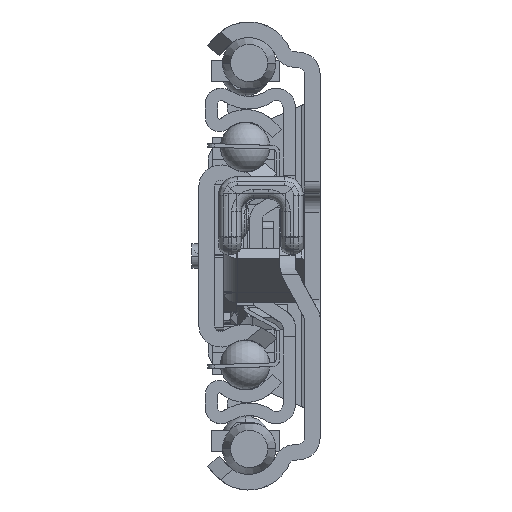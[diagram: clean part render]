
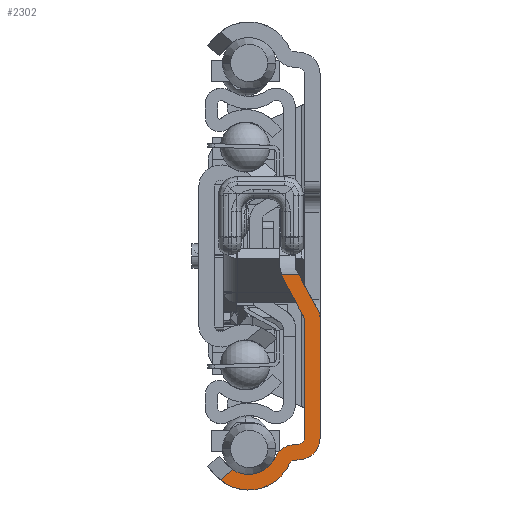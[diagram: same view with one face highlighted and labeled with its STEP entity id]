
A CAD part, left-side view. The second image highlights one B-rep face of the part: STEP entity #2302.
In plain terms, the highlighted planar face has unit normal (-1, 0, 0).
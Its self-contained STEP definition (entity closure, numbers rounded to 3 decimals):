
#45=DIRECTION('',(0.,0.769,-0.639));
#46=VECTOR('',#45,2.575);
#47=CARTESIAN_POINT('',(0.,14.098,
-34.377));
#48=LINE('',#47,#46);
#49=CARTESIAN_POINT('',(0.,11.5,-30.4));
#50=DIRECTION('',(-1.,0.,0.));
#51=DIRECTION('',(0.,0.547,-0.837));
#52=AXIS2_PLACEMENT_3D('',#49,#50,#51);
#54=CARTESIAN_POINT('',(0.,4.008,-33.854));
#55=DIRECTION('',(-1.,0.,0.));
#56=DIRECTION('',(0.,0.087,0.996));
#57=AXIS2_PLACEMENT_3D('',#54,#55,#56);
#59=DIRECTION('',(0.,-0.996,0.087));
#60=VECTOR('',#59,0.904);
#61=CARTESIAN_POINT('',(0.,4.313,-30.368));
#62=LINE('',#61,#60);
#63=DIRECTION('',(0.,0.,1.));
#64=VECTOR('',#63,19.293);
#65=CARTESIAN_POINT('',(0.,2.5,-29.293));
#66=LINE('',#65,#64);
#67=DIRECTION('',(0.,-0.477,-0.879));
#68=VECTOR('',#67,6.873);
#69=CARTESIAN_POINT('',(0.,5.775,-3.958));
#70=LINE('',#69,#68);
#71=CARTESIAN_POINT('',(0.,0.5,-1.099));
#72=DIRECTION('',(-1.,0.,0.));
#73=DIRECTION('',(0.,0.946,-0.324));
#74=AXIS2_PLACEMENT_3D('',#71,#72,#73);
#76=DIRECTION('',(0.,1.,0.));
#77=VECTOR('',#76,2.78);
#78=CARTESIAN_POINT('',(0.,3.397,-3.04));
#79=LINE('',#78,#77);
#80=CARTESIAN_POINT('',(0.,2.5,-9.942));
#81=DIRECTION('',(1.,0.,0.));
#82=DIRECTION('',(0.,-0.879,0.477));
#83=AXIS2_PLACEMENT_3D('',#80,#81,#82);
#85=CARTESIAN_POINT('',(0.,3.5,-29.293));
#86=DIRECTION('',(-1.,0.,0.));
#87=DIRECTION('',(0.,-0.087,-0.996));
#88=AXIS2_PLACEMENT_3D('',#85,#86,#87);
#90=DIRECTION('',(0.,0.996,-0.087));
#91=VECTOR('',#90,0.904);
#92=CARTESIAN_POINT('',(0.,3.195,-32.78));
#93=LINE('',#92,#91);
#94=CARTESIAN_POINT('',(0.,11.5,-30.4));
#95=DIRECTION('',(1.,0.,0.));
#96=DIRECTION('',(0.,-0.908,-0.419));
#97=AXIS2_PLACEMENT_3D('',#94,#95,#96);
#614=DIRECTION('',(0.,0.,1.));
#615=VECTOR('',#614,19.351);
#616=CARTESIAN_POINT('',(0.,0.,-29.293));
#617=LINE('',#616,#615);
#1022=CARTESIAN_POINT('',(0.,16.079,
-36.021));
#1076=CARTESIAN_POINT('',(0.,14.098,
-34.377));
#1365=CARTESIAN_POINT('',(0.,3.5,-29.293));
#1366=DIRECTION('',(1.,0.,0.));
#1367=DIRECTION('',(0.,-1.,0.));
#1368=AXIS2_PLACEMENT_3D('',#1365,#1366,#1367);
#1375=CARTESIAN_POINT('',(0.,4.008,-33.854));
#1376=DIRECTION('',(1.,0.,0.));
#1377=DIRECTION('',(0.,0.908,0.419));
#1378=AXIS2_PLACEMENT_3D('',#1375,#1376,#1377);
#1415=DIRECTION('',(0.,0.477,0.879));
#1416=VECTOR('',#1415,6.495);
#1417=CARTESIAN_POINT('',(0.,0.302,-8.751));
#1418=LINE('',#1417,#1416);
#1422=CARTESIAN_POINT('',(0.,3.397,-3.04));
#1536=CARTESIAN_POINT('',(0.,6.177,-3.04));
#1737=CARTESIAN_POINT('',(0.,2.5,-29.293));
#1738=CARTESIAN_POINT('',(0.,3.413,-30.289));
#1739=VERTEX_POINT('',#1737);
#1740=VERTEX_POINT('',#1738);
#1749=CARTESIAN_POINT('',(0.,4.916,-33.436));
#1750=CARTESIAN_POINT('',(0.,4.095,-32.858));
#1751=VERTEX_POINT('',#1749);
#1752=VERTEX_POINT('',#1750);
#1753=CARTESIAN_POINT('',(0.,4.313,-30.368));
#1754=CARTESIAN_POINT('',(0.,7.186,-32.389));
#1755=VERTEX_POINT('',#1753);
#1756=VERTEX_POINT('',#1754);
#1765=CARTESIAN_POINT('',(0.,3.195,
-32.78));
#1766=CARTESIAN_POINT('',(0.,0.,-29.293));
#1767=VERTEX_POINT('',#1765);
#1768=VERTEX_POINT('',#1766);
#2147=VERTEX_POINT('',#1022);
#2155=VERTEX_POINT('',#1076);
#2180=CARTESIAN_POINT('',(0.,2.5,-10.));
#2181=VERTEX_POINT('',#2180);
#2218=VERTEX_POINT('',#1422);
#2219=CARTESIAN_POINT('',(0.,0.302,-8.751));
#2220=VERTEX_POINT('',#2219);
#2222=CARTESIAN_POINT('',(0.,0.,-9.942));
#2223=VERTEX_POINT('',#2222);
#2228=VERTEX_POINT('',#1536);
#2229=CARTESIAN_POINT('',(0.,5.775,-3.958));
#2230=VERTEX_POINT('',#2229);
#2263=CARTESIAN_POINT('',(0.,0.,0.));
#2264=DIRECTION('',(1.,0.,0.));
#2265=DIRECTION('',(0.,-1.,0.));
#2266=AXIS2_PLACEMENT_3D('',#2263,#2264,#2265);
#2267=PLANE('',#2266);
#2269=ORIENTED_EDGE('',*,*,#2268,.F.);
#2271=ORIENTED_EDGE('',*,*,#2270,.T.);
#2273=ORIENTED_EDGE('',*,*,#2272,.F.);
#2275=ORIENTED_EDGE('',*,*,#2274,.T.);
#2277=ORIENTED_EDGE('',*,*,#2276,.F.);
#2279=ORIENTED_EDGE('',*,*,#2278,.T.);
#2281=ORIENTED_EDGE('',*,*,#2280,.F.);
#2283=ORIENTED_EDGE('',*,*,#2282,.F.);
#2285=ORIENTED_EDGE('',*,*,#2284,.F.);
#2287=ORIENTED_EDGE('',*,*,#2286,.F.);
#2289=ORIENTED_EDGE('',*,*,#2288,.T.);
#2291=ORIENTED_EDGE('',*,*,#2290,.F.);
#2293=ORIENTED_EDGE('',*,*,#2292,.F.);
#2295=ORIENTED_EDGE('',*,*,#2294,.T.);
#2297=ORIENTED_EDGE('',*,*,#2296,.F.);
#2299=ORIENTED_EDGE('',*,*,#2298,.T.);
#2300=EDGE_LOOP('',(#2269,#2271,#2273,#2275,#2277,#2279,#2281,#2283,#2285,#2287,
#2289,#2291,#2293,#2295,#2297,#2299));
#2301=FACE_OUTER_BOUND('',#2300,.F.);
#53=CIRCLE('',#52,4.75);
#58=CIRCLE('',#57,3.5);
#75=CIRCLE('',#74,6.);
#84=CIRCLE('',#83,2.5);
#89=CIRCLE('',#88,3.5);
#98=CIRCLE('',#97,7.25);
#1369=CIRCLE('',#1368,1.);
#1379=CIRCLE('',#1378,1.);
#2268=EDGE_CURVE('',#2155,#2147,#48,.T.);
#2270=EDGE_CURVE('',#2155,#1756,#53,.T.);
#2272=EDGE_CURVE('',#1755,#1756,#58,.T.);
#2274=EDGE_CURVE('',#1755,#1740,#62,.T.);
#2276=EDGE_CURVE('',#1739,#1740,#1369,.T.);
#2278=EDGE_CURVE('',#1739,#2181,#66,.T.);
#2280=EDGE_CURVE('',#2230,#2181,#70,.T.);
#2282=EDGE_CURVE('',#2228,#2230,#75,.T.);
#2284=EDGE_CURVE('',#2218,#2228,#79,.T.);
#2286=EDGE_CURVE('',#2220,#2218,#1418,.T.);
#2288=EDGE_CURVE('',#2220,#2223,#84,.T.);
#2290=EDGE_CURVE('',#1768,#2223,#617,.T.);
#2292=EDGE_CURVE('',#1767,#1768,#89,.T.);
#2294=EDGE_CURVE('',#1767,#1752,#93,.T.);
#2296=EDGE_CURVE('',#1751,#1752,#1379,.T.);
#2298=EDGE_CURVE('',#1751,#2147,#98,.T.);
#2302=ADVANCED_FACE('',(#2301),#2267,.F.);
